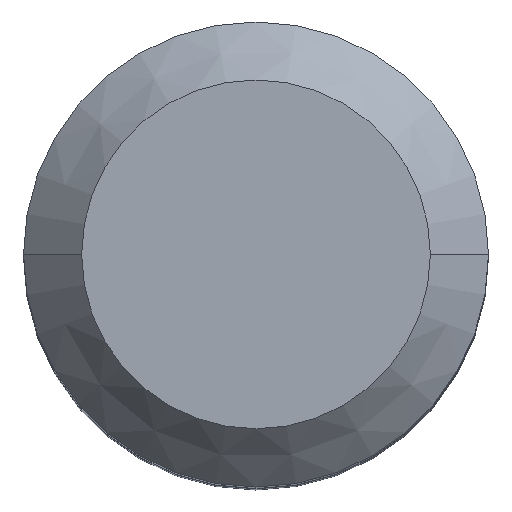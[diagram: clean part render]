
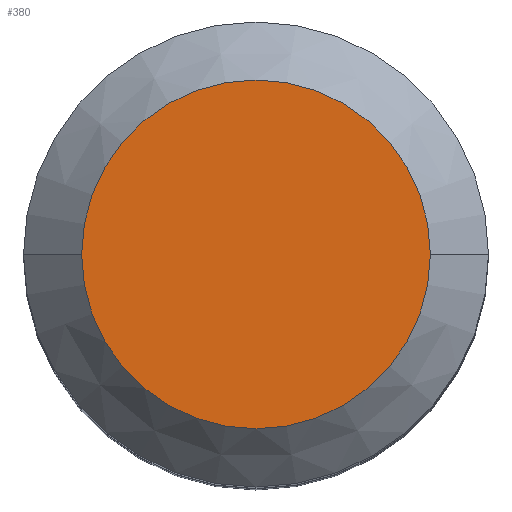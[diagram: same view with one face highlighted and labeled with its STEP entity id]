
A CAD part, top view. The second image highlights one B-rep face of the part: STEP entity #380.
In plain terms, the highlighted planar face has unit normal (0, 0, 1).
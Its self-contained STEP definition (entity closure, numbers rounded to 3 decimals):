
#32 = VERTEX_POINT ( 'NONE', #113 ) ;
#48 = AXIS2_PLACEMENT_3D ( 'NONE', #387, #129, #88 ) ;
#57 = AXIS2_PLACEMENT_3D ( 'NONE', #86, #360, #364 ) ;
#59 = AXIS2_PLACEMENT_3D ( 'NONE', #429, #75, #286 ) ;
#75 = DIRECTION ( 'NONE',  ( 0., 0., -1. ) ) ;
#86 = CARTESIAN_POINT ( 'NONE',  ( 0., 0., 63. ) ) ;
#88 = DIRECTION ( 'NONE',  ( 1., 0., 0. ) ) ;
#113 = CARTESIAN_POINT ( 'NONE',  ( 6., 0., 63. ) ) ;
#129 = DIRECTION ( 'NONE',  ( 0., 0., 1. ) ) ;
#160 = VERTEX_POINT ( 'NONE', #318 ) ;
#212 = FACE_OUTER_BOUND ( 'NONE', #296, .T. ) ;
#260 = ORIENTED_EDGE ( 'NONE', *, *, #283, .T. ) ;
#266 = EDGE_CURVE ( 'NONE', #160, #32, #431, .T. ) ;
#283 = EDGE_CURVE ( 'NONE', #32, #160, #285, .T. ) ;
#285 = CIRCLE ( 'NONE', #48, 6. ) ;
#286 = DIRECTION ( 'NONE',  ( -1., 0., 0. ) ) ;
#296 = EDGE_LOOP ( 'NONE', ( #312, #260 ) ) ;
#312 = ORIENTED_EDGE ( 'NONE', *, *, #266, .T. ) ;
#318 = CARTESIAN_POINT ( 'NONE',  ( -6., 0., 63. ) ) ;
#360 = DIRECTION ( 'NONE',  ( 0., 0., 1. ) ) ;
#364 = DIRECTION ( 'NONE',  ( 1., 0., 0. ) ) ;
#380 = ADVANCED_FACE ( 'NONE', ( #212 ), #405, .F. ) ;
#387 = CARTESIAN_POINT ( 'NONE',  ( 0., 0., 63. ) ) ;
#405 = PLANE ( 'NONE',  #59 ) ;
#429 = CARTESIAN_POINT ( 'NONE',  ( 6., 0., 63. ) ) ;
#431 = CIRCLE ( 'NONE', #57, 6. ) ;
